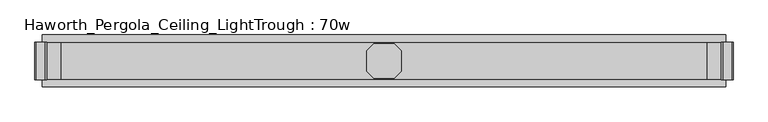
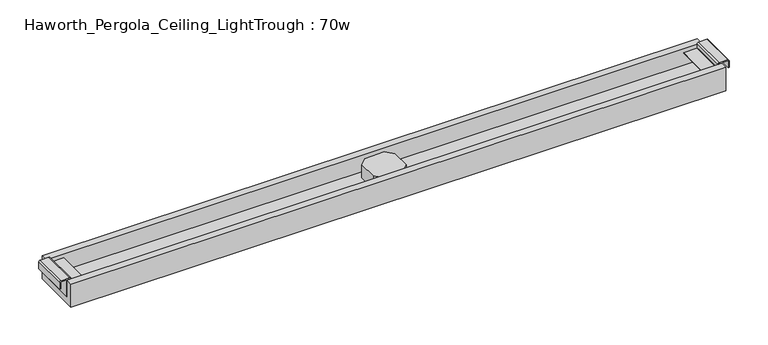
"""IFC4 building model written with IfcOpenShell, lengths in millimetres: furniture geometry, Haworth_Pergola_Ceiling_LightTrough : 70w."""

from ifc_helpers import new_model, si_unit, point, frame, frame_2d, origin, place, context, project, spatial, polyline, circle_curve, trimmed, segment, composite_curve, outline, extrude, source, transform, mapped, element, save


def haworth_pergola_ceiling_lighttrough_70w_36a8bbfd(model_context):
    return source(origin(), model_context, "Body", "SweptSolid", [
        extrude(outline(polyline([(5.0419998, 26.8840513), (23.1159515, 44.9580002), (76.8840484, 44.9580002), (94.9580002, 26.8840513), (94.9580002, -26.8840485), (76.8840484, -44.9580002), (23.1159515, -44.9580002), (5.0419998, -26.8840485), (5.0419998, 26.8840513)])), frame((0.0, 0.0, 2389.4796), z_axis=(0.0, 0.0, 1.0), x_axis=(1.0, 0.0, 0.0)), (0.0, 0.0, 1.0), 38.0999994),
        extrude(outline(composite_curve([segment(polyline([(2418.3545999, 958.3534303), (2437.4045999, 958.3534303)]), True, "CONTINUOUS"), segment(trimmed(circle_curve(frame_2d((2437.4045999, 954.6934293)), 3.660001), [point((2437.4045999, 958.3534303))], [point((2441.0646008, 954.6934293))], False, "CARTESIAN"), True, "CONTINUOUS"), segment(polyline([(2441.0646008, 954.6934293), (2441.0646008, 931.2934303)]), True, "CONTINUOUS"), segment(trimmed(circle_curve(frame_2d((2437.0478931, 931.6670697)), 4.0340485), [point((2441.0646008, 931.2934303))], [point((2437.0478931, 927.6330212))], False, "CARTESIAN"), True, "CONTINUOUS"), segment(polyline([(2437.0478931, 927.6330212), (2426.6645986, 927.6330212), (2425.6646, 926.6330226), (2425.6646, 891.1434301), (2423.0046, 891.1434301), (2423.0046, 926.6334301), (2423.0046, 937.0999999), (2389.4796, 937.0999999), (2389.4796, 939.0), (2437.0478931, 939.0), (2437.0478931, 937.0999999), (2426.6645986, 937.0999999), (2426.6645986, 930.29343), (2437.0478931, 930.29343), (2438.4045979, 931.2934303), (2438.4045979, 954.6934316), (2437.4045999, 955.6934296), (2418.3545999, 955.6934296), (2418.3545999, 958.3534303)]), True, "CONTINUOUS")], self_intersect=False)), frame((0.0, -48.650001, 0.0), z_axis=(0.0, 1.0, 0.0), x_axis=(0.0, 0.0, 1.0)), (0.0, 0.0, 1.0), 97.3000021),
        extrude(outline(composite_curve([segment(polyline([(2418.3545999, -858.3534303), (2418.3545999, -855.6934296), (2437.4045999, -855.6934296), (2438.4045979, -854.6934316), (2438.4045979, -831.2934303), (2437.0478931, -830.29343), (2426.6645986, -830.29343), (2426.6645986, -837.1), (2437.0478931, -837.1), (2437.0478931, -839.0), (2389.4796, -839.0), (2389.4796, -837.1), (2423.0046, -837.1), (2423.0046, -826.6334301), (2423.0046, -791.1434301), (2425.6646, -791.1434301), (2425.6646, -826.6330226), (2426.6645986, -827.6330212), (2437.0478931, -827.6330212)]), True, "CONTINUOUS"), segment(trimmed(circle_curve(frame_2d((2437.0478931, -831.6670697)), 4.0340485), [point((2437.0478931, -827.6330212))], [point((2441.0646008, -831.2934303))], False, "CARTESIAN"), True, "CONTINUOUS"), segment(polyline([(2441.0646008, -831.2934303), (2441.0646008, -854.6934294)]), True, "CONTINUOUS"), segment(trimmed(circle_curve(frame_2d((2437.4045999, -854.6934294)), 3.660001), [point((2441.0646008, -854.6934294))], [point((2437.4045999, -858.3534303))], False, "CARTESIAN"), True, "CONTINUOUS"), segment(polyline([(2437.4045999, -858.3534303), (2418.3545999, -858.3534303)]), True, "CONTINUOUS")], self_intersect=False)), frame((0.0, -48.650001, 0.0), z_axis=(0.0, 1.0, 0.0), x_axis=(0.0, 0.0, 1.0)), (0.0, 0.0, 1.0), 97.3000021),
        extrude(outline(polyline([(67.700001, 2370.4296), (-67.700001, 2370.4296), (-67.700001, 2437.0478931), (-48.650001, 2437.0478931), (-48.650001, 2389.4796), (48.650001, 2389.4796), (48.650001, 2437.0478931), (67.700001, 2437.0478931), (67.700001, 2370.4296)])), frame((-839.0, 0.0, 0.0), z_axis=(1.0, 0.0, 0.0), x_axis=(0.0, 1.0, 0.0)), (0.0, 0.0, 1.0), 1778.0),
    ])


if __name__ == "__main__":
    model = new_model("IFC4")
    model_context = context("Model", 3, world=origin())
    ifc_project = project(units=[si_unit("LENGTHUNIT", "METRE", prefix="MILLI")], contexts=[model_context])
    site = spatial("IfcSite", under=ifc_project)
    building = spatial("IfcBuilding", under=site)
    placement = place(None, origin())
    haworth_pergola_ceiling_lighttrough_70w_shape = haworth_pergola_ceiling_lighttrough_70w_36a8bbfd(model_context)
    element("IfcFurniture", 1, ObjectType="Haworth_Pergola_Ceiling_LightTrough : 70w", at=placement, inside=building, context=model_context, shape_type="MappedRepresentation", body=[
        mapped(haworth_pergola_ceiling_lighttrough_70w_shape, transform((0.0, 0.0, 0.0), x_axis=(1.0, 0.0, 0.0), y_axis=(0.0, 1.0, 0.0), z_axis=(0.0, 0.0, 1.0))),
    ])
    save(model, "model.ifc")
